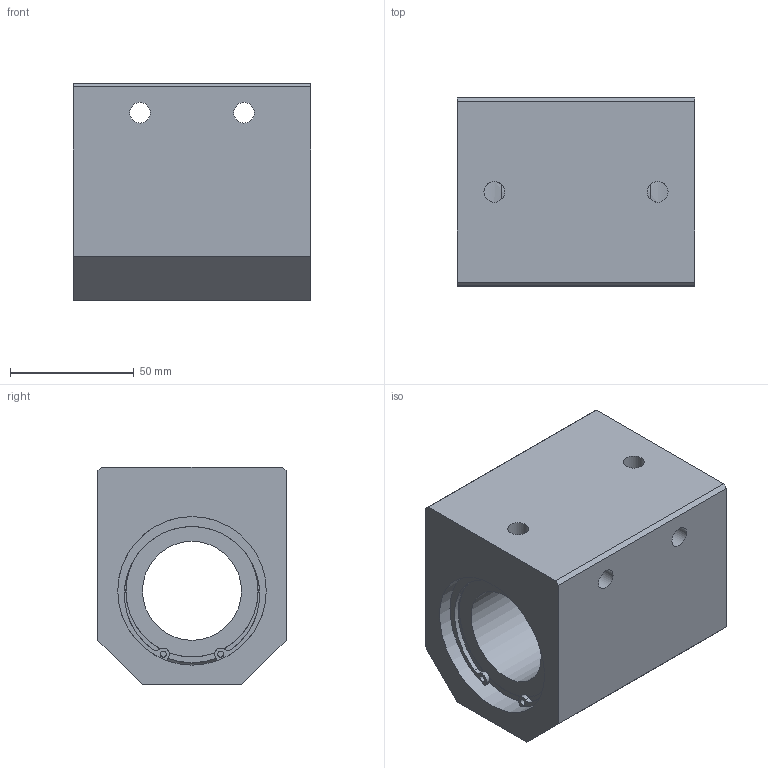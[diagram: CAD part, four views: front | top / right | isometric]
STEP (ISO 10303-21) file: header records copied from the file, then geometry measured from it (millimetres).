
FILE_DESCRIPTION (( 'STEP AP214' ), '1' );
FILE_NAME ('CH40.STEP', '2021-06-24T02:21:32', ( '' ), ( '' ), 'SwSTEP 2.0', 'SolidWorks 2019', '' );
FILE_SCHEMA (( 'AUTOMOTIVE_DESIGN' ));
Length unit declared in the file: millimetre
Products named in the file (1): CH40
Bounding box: 96 x 76 x 88 mm (x, y, z)
Volume: 451503.4 mm3; surface area: 62581.3 mm2
Topology: 1 solids, 1 shells, 75 faces, 197 edges, 122 vertices
Faces by surface type: plane 42, cylinder 31, torus 2
Full cylindrical faces by diameter (mm): 2.5 x4, 8.376 x4, 16 x2, 40 x1, 53.4 x2, 57 x2, 60 x4
Entity records: 2294 total; most frequent: CARTESIAN_POINT 500, DIRECTION 404, ORIENTED_EDGE 316, AXIS2_PLACEMENT_3D 176, EDGE_CURVE 158, EDGE_LOOP 118, VERTEX_POINT 106, CIRCLE 100
